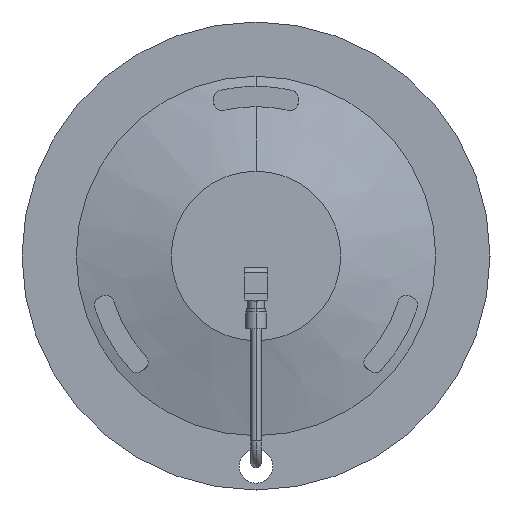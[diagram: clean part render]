
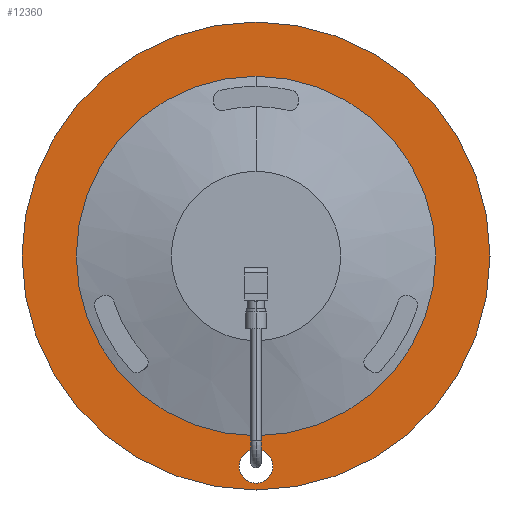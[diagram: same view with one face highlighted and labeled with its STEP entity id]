
A CAD part, front view. The second image highlights one B-rep face of the part: STEP entity #12360.
In plain terms, the highlighted planar face has unit normal (0, -1, 0).
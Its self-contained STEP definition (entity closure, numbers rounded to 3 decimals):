
#92 = CARTESIAN_POINT ( 'NONE',  ( 0., -172.8, 138. ) ) ;
#283 = AXIS2_PLACEMENT_3D ( 'NONE', #13156, #2969, #14721 ) ;
#342 = AXIS2_PLACEMENT_3D ( 'NONE', #13051, #4596, #11585 ) ;
#367 = ORIENTED_EDGE ( 'NONE', *, *, #5662, .F. ) ;
#655 = EDGE_LOOP ( 'NONE', ( #367, #10624 ) ) ;
#1171 = CARTESIAN_POINT ( 'NONE',  ( 0., -172.8, -105.981 ) ) ;
#1297 = ORIENTED_EDGE ( 'NONE', *, *, #2491, .F. ) ;
#1326 = EDGE_LOOP ( 'NONE', ( #8159, #14111 ) ) ;
#1639 = FACE_BOUND ( 'NONE', #1326, .T. ) ;
#1716 = EDGE_CURVE ( 'NONE', #12803, #7841, #6458, .T. ) ;
#2179 = AXIS2_PLACEMENT_3D ( 'NONE', #13478, #14600, #13405 ) ;
#2323 = EDGE_CURVE ( 'NONE', #10019, #4793, #9203, .T. ) ;
#2491 = EDGE_CURVE ( 'NONE', #4793, #10019, #4292, .T. ) ;
#2969 = DIRECTION ( 'NONE',  ( 0., -1., 0. ) ) ;
#3871 = VERTEX_POINT ( 'NONE', #4353 ) ;
#4255 = CIRCLE ( 'NONE', #8053, 138. ) ;
#4292 = CIRCLE ( 'NONE', #13082, 10. ) ;
#4353 = CARTESIAN_POINT ( 'NONE',  ( 0., -172.8, 105.981 ) ) ;
#4439 = DIRECTION ( 'NONE',  ( 0., 0., -1. ) ) ;
#4596 = DIRECTION ( 'NONE',  ( 0., -1., 0. ) ) ;
#4793 = VERTEX_POINT ( 'NONE', #12544 ) ;
#5045 = DIRECTION ( 'NONE',  ( 0., 0., -1. ) ) ;
#5351 = AXIS2_PLACEMENT_3D ( 'NONE', #5860, #13743, #12397 ) ;
#5662 = EDGE_CURVE ( 'NONE', #7841, #12803, #4255, .T. ) ;
#5860 = CARTESIAN_POINT ( 'NONE',  ( -138., -172.8, 0. ) ) ;
#6026 = DIRECTION ( 'NONE',  ( 0., 1., 0. ) ) ;
#6458 = CIRCLE ( 'NONE', #2179, 138. ) ;
#6596 = CARTESIAN_POINT ( 'NONE',  ( 0., -172.8, -124. ) ) ;
#6771 = CIRCLE ( 'NONE', #342, 105.981 ) ;
#7132 = EDGE_CURVE ( 'NONE', #3871, #10322, #10969, .T. ) ;
#7535 = CARTESIAN_POINT ( 'NONE',  ( 0., -172.8, -138. ) ) ;
#7564 = CARTESIAN_POINT ( 'NONE',  ( 0., -172.8, -124. ) ) ;
#7841 = VERTEX_POINT ( 'NONE', #92 ) ;
#8053 = AXIS2_PLACEMENT_3D ( 'NONE', #13766, #6026, #11815 ) ;
#8157 = PLANE ( 'NONE',  #5351 ) ;
#8159 = ORIENTED_EDGE ( 'NONE', *, *, #7132, .F. ) ;
#8475 = FACE_OUTER_BOUND ( 'NONE', #655, .T. ) ;
#8823 = DIRECTION ( 'NONE',  ( 0., -1., 0. ) ) ;
#9203 = CIRCLE ( 'NONE', #11097, 10. ) ;
#9550 = ORIENTED_EDGE ( 'NONE', *, *, #2323, .F. ) ;
#9596 = FACE_BOUND ( 'NONE', #11389, .T. ) ;
#10019 = VERTEX_POINT ( 'NONE', #10733 ) ;
#10322 = VERTEX_POINT ( 'NONE', #1171 ) ;
#10624 = ORIENTED_EDGE ( 'NONE', *, *, #1716, .F. ) ;
#10733 = CARTESIAN_POINT ( 'NONE',  ( 0., -172.8, -134. ) ) ;
#10969 = CIRCLE ( 'NONE', #283, 105.981 ) ;
#11097 = AXIS2_PLACEMENT_3D ( 'NONE', #7564, #13075, #5045 ) ;
#11389 = EDGE_LOOP ( 'NONE', ( #1297, #9550 ) ) ;
#11585 = DIRECTION ( 'NONE',  ( 0., 0., -1. ) ) ;
#11815 = DIRECTION ( 'NONE',  ( 0., 0., 1. ) ) ;
#12360 = ADVANCED_FACE ( 'NONE', ( #1639, #9596, #8475 ), #8157, .T. ) ;
#12397 = DIRECTION ( 'NONE',  ( 0., 0., -1. ) ) ;
#12544 = CARTESIAN_POINT ( 'NONE',  ( 0., -172.8, -114. ) ) ;
#12803 = VERTEX_POINT ( 'NONE', #7535 ) ;
#13051 = CARTESIAN_POINT ( 'NONE',  ( 0., -172.8, 0. ) ) ;
#13075 = DIRECTION ( 'NONE',  ( 0., -1., 0. ) ) ;
#13082 = AXIS2_PLACEMENT_3D ( 'NONE', #6596, #8823, #4439 ) ;
#13156 = CARTESIAN_POINT ( 'NONE',  ( 0., -172.8, 0. ) ) ;
#13405 = DIRECTION ( 'NONE',  ( 0., 0., 1. ) ) ;
#13478 = CARTESIAN_POINT ( 'NONE',  ( 0., -172.8, 0. ) ) ;
#13743 = DIRECTION ( 'NONE',  ( 0., -1., 0. ) ) ;
#13753 = EDGE_CURVE ( 'NONE', #10322, #3871, #6771, .T. ) ;
#13766 = CARTESIAN_POINT ( 'NONE',  ( 0., -172.8, 0. ) ) ;
#14111 = ORIENTED_EDGE ( 'NONE', *, *, #13753, .F. ) ;
#14600 = DIRECTION ( 'NONE',  ( 0., 1., 0. ) ) ;
#14721 = DIRECTION ( 'NONE',  ( 0., 0., -1. ) ) ;
